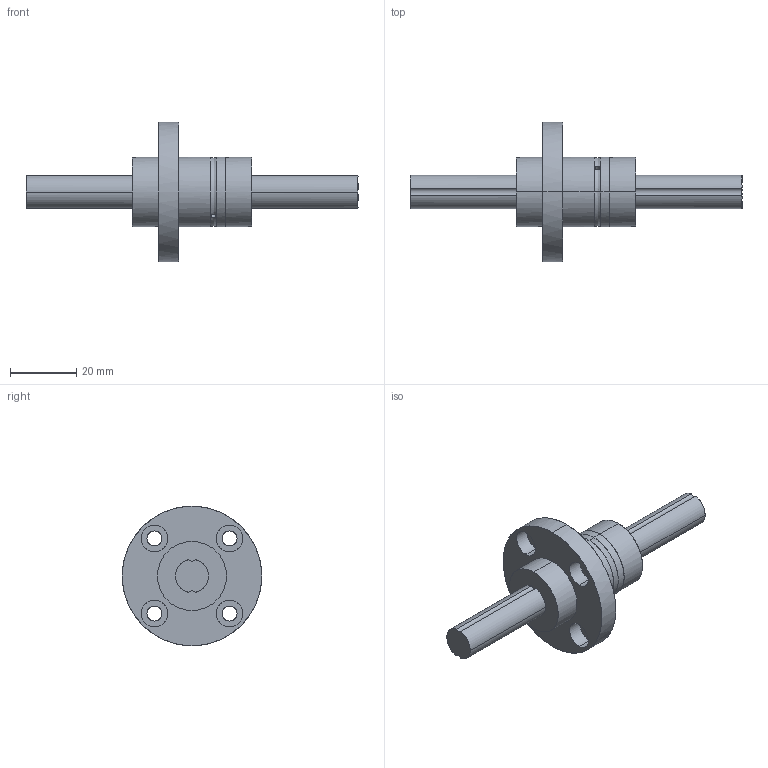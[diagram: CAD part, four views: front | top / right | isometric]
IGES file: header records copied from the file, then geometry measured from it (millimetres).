
Global section: file name: No Iges File Name specified; native system: AutoDesk Inventor R11.0; preprocessor: AutoDesk Inventor Iges Exporter R11.0; author: No Author specified; organization: No Organization specified; date: 20150223.133100; units: millimetre
Bounding box: 100 x 42 x 42 mm (x, y, z)
Surface area: 10308.5 mm2 (no closed solid volume)
Topology: 0 solids, 0 shells, 54 faces, 382 edges, 382 vertices
Faces by surface type: bspline 54
